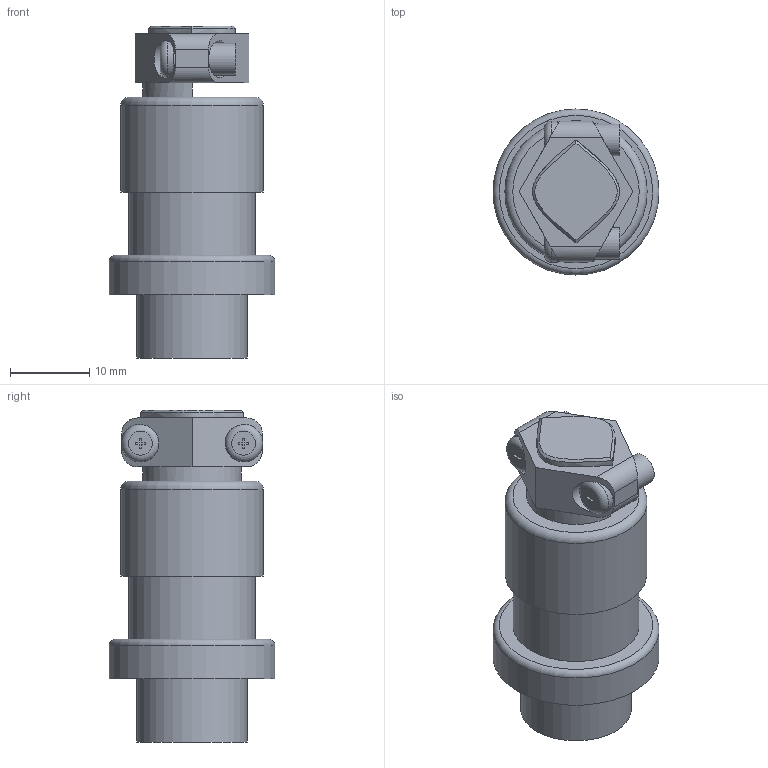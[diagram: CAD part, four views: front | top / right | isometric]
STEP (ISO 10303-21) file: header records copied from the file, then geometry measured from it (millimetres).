
FILE_DESCRIPTION (( 'STEP AP203' ), '1' );
FILE_NAME ('YISCK16-1(0).STEP', '2025-05-28T06:43:02', ( '' ), ( '' ), 'SwSTEP 2.0', 'SolidWorks 2021', '' );
FILE_SCHEMA (( 'CONFIG_CONTROL_DESIGN' ));
Length unit declared in the file: millimetre
Products named in the file (1): YISCK16-1(0)
Bounding box: 21 x 21 x 42 mm (x, y, z)
Volume: 8530.7 mm3; surface area: 3973 mm2
Topology: 1 solids, 1 shells, 79 faces, 192 edges, 127 vertices
Faces by surface type: plane 51, cylinder 20, torus 4, bspline 4
Full cylindrical faces by diameter (mm): 2.7 x1, 3.2 x1, 4 x2, 4.7 x2, 14 x1, 16 x2, 18 x1, 21 x1
Entity records: 2459 total; most frequent: CARTESIAN_POINT 666, ORIENTED_EDGE 344, DIRECTION 326, EDGE_CURVE 172, VERTEX_POINT 122, EDGE_LOOP 110, AXIS2_PLACEMENT_3D 110, VECTOR 106
